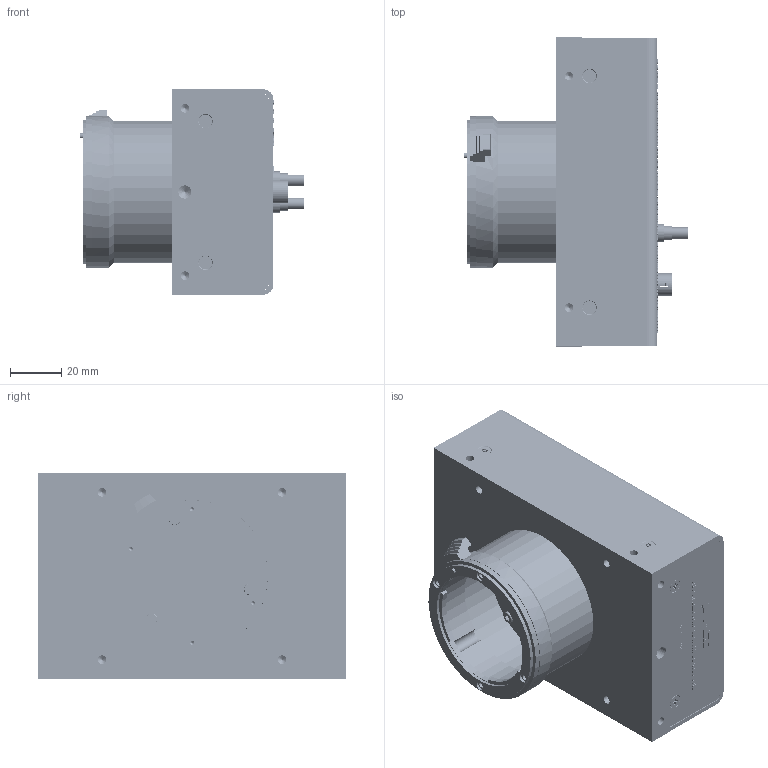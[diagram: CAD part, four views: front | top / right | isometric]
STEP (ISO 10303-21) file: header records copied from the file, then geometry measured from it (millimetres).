
FILE_DESCRIPTION (( 'STEP AP214' ), '1' );
FILE_NAME ('C7-5090-00-43／RMSL4K76CP／外観モデル.STEP', '2019-04-10T06:21:25', ( '' ), ( '' ), 'SwSTEP 2.0', 'SolidWorks 2016', '' );
FILE_SCHEMA (( 'AUTOMOTIVE_DESIGN' ));
Length unit declared in the file: millimetre
Products named in the file (41): C5-5115-00-43／コネクタ_55339-1208; C5-5143-00-43／CMOS 4k Line B&W ImageSensor_DR4K7_Invar_B&W_BM_v4(Art.-No.101148); C5-5089-00-43／コネクタ_120P-JASKS-GE-TF2; C5-5042-00-43／ﾋﾟﾝ・ｻﾗ6-ﾛﾌﾞﾎﾞﾙﾄ_M2.6X6(SUS); 基板^C5-1009-01-41／XCM40A用中継基板_PCB-XCM40A-C00#F; C5-1009-01-41／XCM40A用中継基板_PCB-XCM40A-C00#F; C5-5029-00-40_06／六角穴付ボルト M2.6X06 SUS_SCB2.6-6; ATMELマウント本体筒; C5-5098-00-43／miniUSB_651005136421; Fマウント; C5-1057-00-42／XCM_RT8_CXP用ｲﾝﾀｰﾌｪｲｽ基板_PCB-XCM_RT8-CXP00#F; C4-1014-01-42／フロントパネル; 基板^C5-1057-00-42／XCM_RT8_CXP用ｲﾝﾀｰﾌｪｲｽ基板_PCB-XCM_RT8-CXP00#F; C5-5012-00-40_06／座付きなべ頭小ねじ（P=4) M2.6X06 SUS_CSPPNZP-SUS-M2.6-6; C4-1019-01-42／側面パネル; C5-1053-02-42／XCM_RT8用ﾒｲﾝ基板_PCB-XCM_RT8-M00#F; C5-5099-00-43／発光ダイオード_SPR-39MVWF; CZA07011／アトメルマウント; 菊座^C5-5094-00-43_6／コネクタ_HR10G-7R-6PB; C5-5086-00-43_08／スペーサ(六角)_BSB-2608E; コネクタ^C5-5094-00-43_6／コネクタ_HR10G-7R-6PB; プリント基板XCM_RT8-M00#F^C5-1053-02-42／XCM_RT8用ﾒｲﾝ基板_PCB-XCM_RT8-M00#F; ナット^C5-5094-00-43_6／コネクタ_HR10G-7R-6PB; 基板^C5-5143-00-43／CMOS 4k Line B&W ImageSensor_DR4K7_Invar_B&W_BM_v4(Art.-No.101148); C4-1080-00-42／背面カバー; C5-5088-00-43／コネクタ_120R4.5-JASKS-GWAN-TF2; C5-5094-00-43_6／コネクタ_HR10G-7R-6PB; Part7^C5-5095-00-43_01／コネクタ_282121-75; C5-5096-00-43／コネクタ_FX6-60S-0.8SV; C5-5136-00-43／スルーホールタップ_TH-1.6-5.5-M2.6-B; C5-5092-00-43／コネクタ_MXW-1-3-4PW; C5-5097-00-43／コネクタ_MEW-1-1-4PW; C5-5095-00-43_01／コネクタ_282121-75; Part6^C5-5095-00-43_01／コネクタ_282121-75; C7-5090-00-43／RMSL4K76CP／外観モデル; C5-5086-00-43_05／スペーサ(六角)_BSB-2605E; C5-5030-00-40_05／六角穴付ボルト M2X05 SUS_SCB2-5; C5-5091-00-43_10／コネクタ_DF11-10DP-2DS; C5-5019-00-40_06／サラネジ M2.6X06 SUS_SFBJ2.6-6; C5-5090-00-43／コネクタ_FX6-60P-0.8SV1(71)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
Assembly tree (69 placements, depth 3):
  C7-5090-00-43／RMSL4K76CP／外観モデル
    C4-1014-01-42／フロントパネル
    C4-1019-01-42／側面パネル  x2
    C4-1080-00-42／背面カバー
    CZA07011／アトメルマウント
      ATMELマウント本体筒
      Fマウント
    C5-5094-00-43_6／コネクタ_HR10G-7R-6PB
      コネクタ^C5-5094-00-43_6／コネクタ_HR10G-7R-6PB
      菊座^C5-5094-00-43_6／コネクタ_HR10G-7R-6PB
      ナット^C5-5094-00-43_6／コネクタ_HR10G-7R-6PB
    C5-5095-00-43_01／コネクタ_282121-75  x2
      Part6^C5-5095-00-43_01／コネクタ_282121-75
      Part7^C5-5095-00-43_01／コネクタ_282121-75
    C5-5143-00-43／CMOS 4k Line B&W ImageSensor_DR4K7_Invar_B&W_BM_v4(Art.-No.101148)
      基板^C5-5143-00-43／CMOS 4k Line B&W ImageSensor_DR4K7_Invar_B&W_BM_v4(Art.-No.101148)
      C5-5115-00-43／コネクタ_55339-1208
    C5-1009-01-41／XCM40A用中継基板_PCB-XCM40A-C00#F
      基板^C5-1009-01-41／XCM40A用中継基板_PCB-XCM40A-C00#F
      C5-5088-00-43／コネクタ_120R4.5-JASKS-GWAN-TF2
      C5-5066-00-44／コネクタ_54477-1208
    C5-1053-02-42／XCM_RT8用ﾒｲﾝ基板_PCB-XCM_RT8-M00#F
      C5-5089-00-43／コネクタ_120P-JASKS-GE-TF2  x2
      C5-5090-00-43／コネクタ_FX6-60P-0.8SV1(71)  x2
      C5-5091-00-43_10／コネクタ_DF11-10DP-2DS
      C5-5092-00-43／コネクタ_MXW-1-3-4PW
      プリント基板XCM_RT8-M00#F^C5-1053-02-42／XCM_RT8用ﾒｲﾝ基板_PCB-XCM_RT8-M00#F
    C5-1057-00-42／XCM_RT8_CXP用ｲﾝﾀｰﾌｪｲｽ基板_PCB-XCM_RT8-CXP00#F
      基板^C5-1057-00-42／XCM_RT8_CXP用ｲﾝﾀｰﾌｪｲｽ基板_PCB-XCM_RT8-CXP00#F
      C5-5091-00-43_10／コネクタ_DF11-10DP-2DS
      C5-5096-00-43／コネクタ_FX6-60S-0.8SV  x2
      C5-5097-00-43／コネクタ_MEW-1-1-4PW
      C5-5098-00-43／miniUSB_651005136421
      C5-5099-00-43／発光ダイオード_SPR-39MVWF
      C5-5136-00-43／スルーホールタップ_TH-1.6-5.5-M2.6-B  x2
    C5-5012-00-40_06／座付きなべ頭小ねじ（P=4) M2.6X06 SUS_CSPPNZP-SUS-M2.6-6  x6
    C5-5029-00-40_06／六角穴付ボルト M2.6X06 SUS_SCB2.6-6  x3
    C5-5030-00-40_05／六角穴付ボルト M2X05 SUS_SCB2-5  x4
    C5-5019-00-40_06／サラネジ M2.6X06 SUS_SFBJ2.6-6  x4
    C5-5042-00-43／ﾋﾟﾝ・ｻﾗ6-ﾛﾌﾞﾎﾞﾙﾄ_M2.6X6(SUS)  x6
    C5-5086-00-43_05／スペーサ(六角)_BSB-2605E  x2
    C5-5086-00-43_08／スペーサ(六角)_BSB-2608E  x4
Bounding box: 86.9 x 120 x 80 mm (x, y, z)
Volume: 203839.7 mm3; surface area: 149264.8 mm2
Topology: 72 solids, 87 shells, 24768 faces, 70181 edges, 45222 vertices
Faces by surface type: plane 19919, bspline 3286, cylinder 1296, cone 233, sphere 22, torus 12
Full cylindrical faces by diameter (mm): 0.19 x1, 0.4 x3, 0.45 x32, 0.5 x10, 0.8 x10, 0.9 x4, 1 x6, 1.2 x4, 1.5 x5, 1.6 x8, 1.7 x2, 2 x10, 2.05 x14, 2.2 x20, 2.288 x6, 2.6 x22, 2.8 x19, 3.1 x3, 3.2 x4, 3.3 x12, 3.4 x2, 3.5 x7, 3.8 x5, 4.1 x2, 4.5 x11, 4.8 x6, 5 x9, 5.105 x1, 5.2 x5, 5.5 x4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
Entity records: 860382 total; most frequent: CARTESIAN_POINT 228924, ORIENTED_EDGE 119748, DIRECTION 92418, EDGE_CURVE 59874, LINE 51164, VECTOR 51164, VERTEX_POINT 38682, EDGE_LOOP 22544
